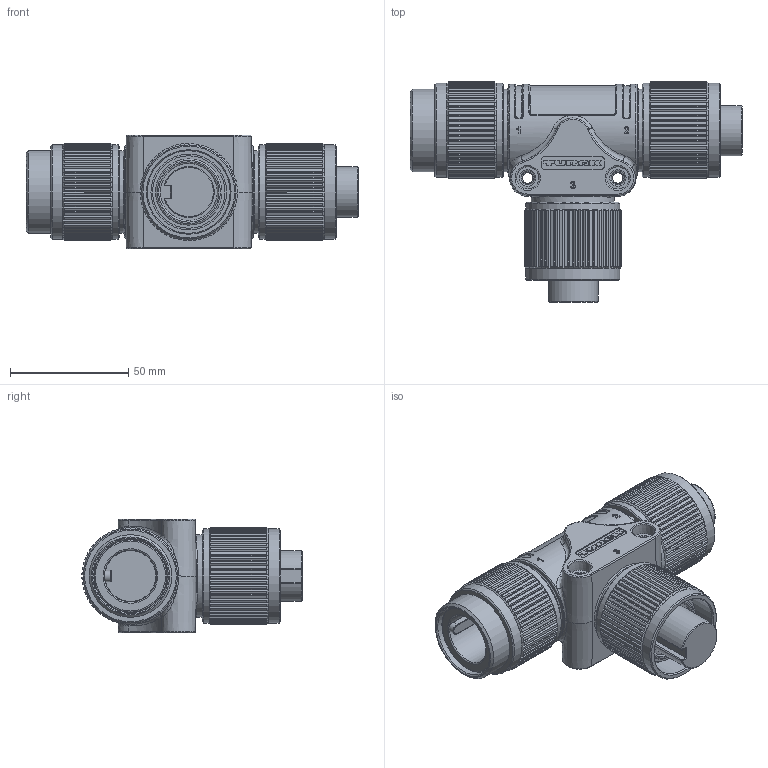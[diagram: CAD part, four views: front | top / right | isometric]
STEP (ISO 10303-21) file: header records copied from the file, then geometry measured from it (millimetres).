
FILE_DESCRIPTION (( 'STEP AP203' ), '1' );
FILE_NAME ('GSD-2GKD.step', '2020-12-08T23:11:46', ( '' ), ( '' ), 'SwSTEP 2.0', 'SolidWorks 2019', '' );
FILE_SCHEMA (( 'CONFIG_CONTROL_DESIGN' ));
Length unit declared in the file: millimetre
Products named in the file (1): GSD-2GKD
Bounding box: 140.3 x 93.02 x 48 mm (x, y, z)
Volume: 215459.6 mm3; surface area: 46639.5 mm2
Topology: 1 solids, 1 shells, 1261 faces, 3528 edges, 2314 vertices
Faces by surface type: plane 818, cylinder 263, bspline 92, torus 46, cone 38, sphere 4
Full cylindrical faces by diameter (mm): 4.4 x2, 24.05 x2, 24.9 x2, 28.05 x2, 30.6 x3, 31 x1, 32 x2, 34.7 x3, 34.925 x3, 35 x3, 39.764 x6
Entity records: 43826 total; most frequent: CARTESIAN_POINT 13654, ORIENTED_EDGE 6802, DIRECTION 5331, EDGE_CURVE 3401, VERTEX_POINT 2269, LINE 1847, VECTOR 1847, AXIS2_PLACEMENT_3D 1742
